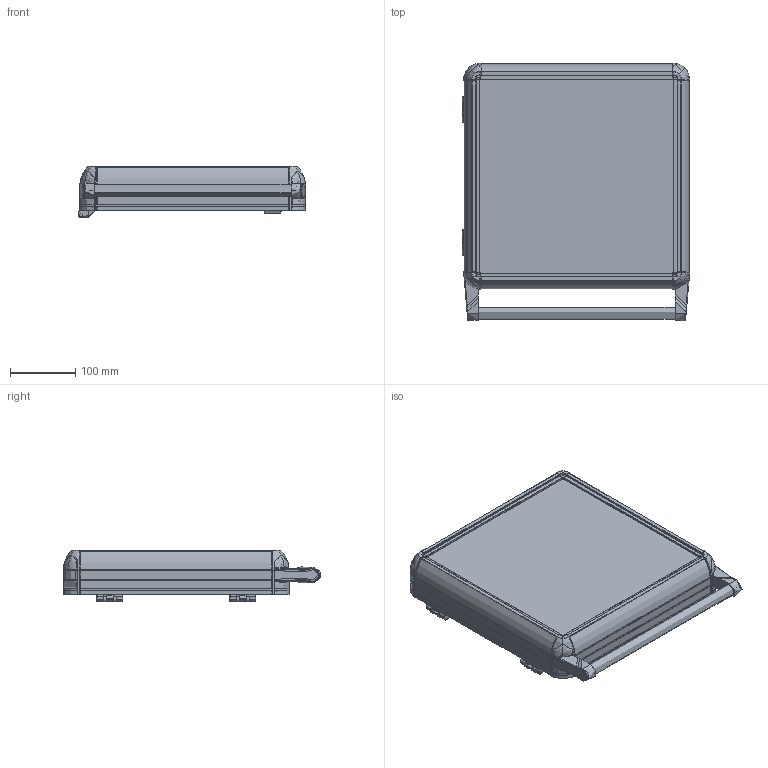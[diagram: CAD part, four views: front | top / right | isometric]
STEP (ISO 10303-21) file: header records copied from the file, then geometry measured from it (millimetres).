
FILE_DESCRIPTION (( 'STEP AP214' ), '1' );
FILE_NAME ('6000-0104.STEP', '2022-08-31T12:44:23', ( '' ), ( '' ), 'SwSTEP 2.0', 'SolidWorks 2022', '' );
FILE_SCHEMA (( 'AUTOMOTIVE_DESIGN' ));
Length unit declared in the file: millimetre
Products named in the file (8): ECO6000-0100(SAÐ); ECO6000-0000; ARKA_KAPAK_300X300; ECO6000-0100(SOL); 6000-0104; HPECO-060-001-295_295; 300X300; boru_325
Assembly tree (11 placements, depth 2):
  6000-0104
    ARKA_KAPAK_300X300
    ECO6000-0100(SAÐ)
    ECO6000-0100(SOL)
    ECO6000-0000  x2
    HPECO-060-001-295_295  x4
    boru_325
    300X300
Bounding box: 349.03 x 395.62 x 79.15 mm (x, y, z)
Topology: 41 solids, 83 shells, 5293 faces, 14140 edges, 8780 vertices
Faces by surface type: plane 2037, cylinder 1387, bspline 1020, cone 527, torus 276, sphere 46
Entity records: 207954 total; most frequent: CARTESIAN_POINT 58218, ORIENTED_EDGE 23770, DIRECTION 19215, EDGE_CURVE 11884, VERTEX_POINT 7406, AXIS2_PLACEMENT_3D 7023, VECTOR 5169, LINE 5169
